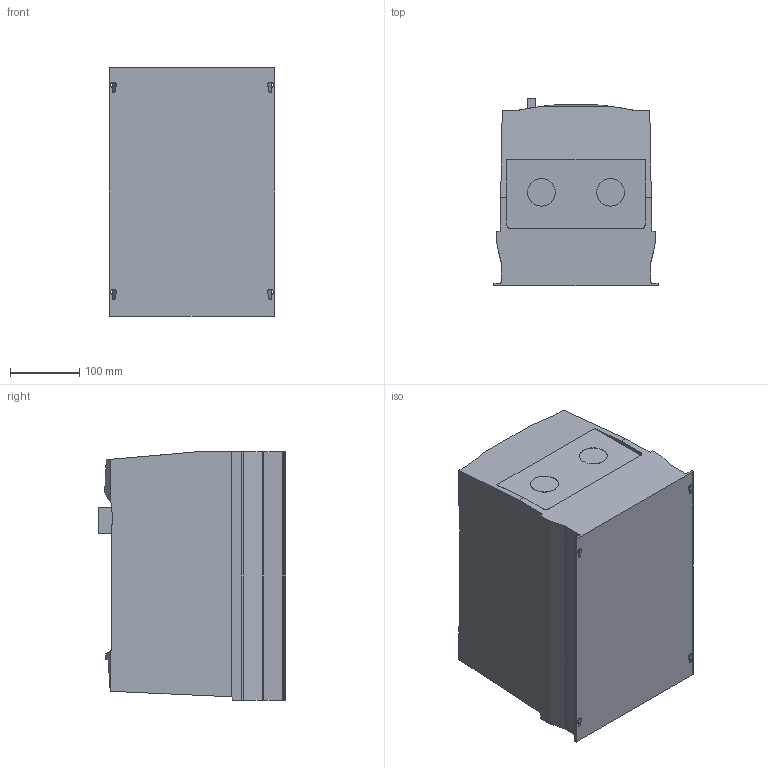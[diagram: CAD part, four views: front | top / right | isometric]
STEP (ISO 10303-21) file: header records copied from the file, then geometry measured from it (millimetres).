
FILE_DESCRIPTION((''),'2;1');
FILE_NAME('E3_IP66_OUTDOOR_SIZE_4','2024-01-09T22:34:39',('TralauTi'),('Draeger Safety AG & Co KG aA'),'CREO PARAMETRIC BY PTC INC, 2022414','CREO PARAMETRIC BY PTC INC, 2022414','');
FILE_SCHEMA(('CONFIG_CONTROL_DESIGN'));
Length unit declared in the file: millimetre
Products named in the file (1): E3_IP66_OUTDOOR_SIZE_4
Bounding box: 240 x 271.6 x 359.91 mm (x, y, z)
Volume: 19158000 mm3; surface area: 474394.8 mm2
Topology: 3 solids, 3 shells, 100 faces, 273 edges, 182 vertices
Faces by surface type: plane 65, cylinder 24, extrusion 11
Entity records: 3470 total; most frequent: CARTESIAN_POINT 891, ORIENTED_EDGE 546, DIRECTION 480, EDGE_CURVE 273, VECTOR 204, LINE 193, VERTEX_POINT 182, AXIS2_PLACEMENT_3D 138
